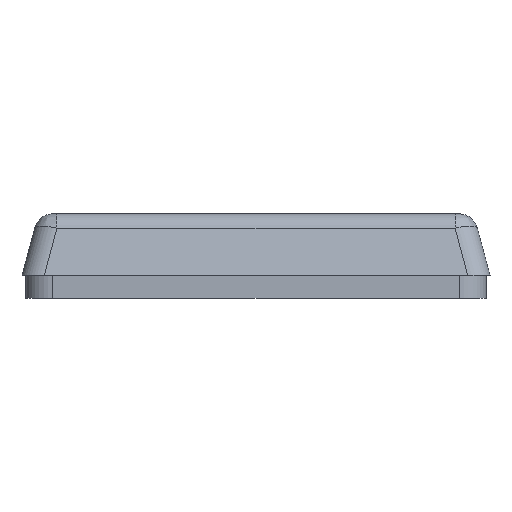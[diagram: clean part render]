
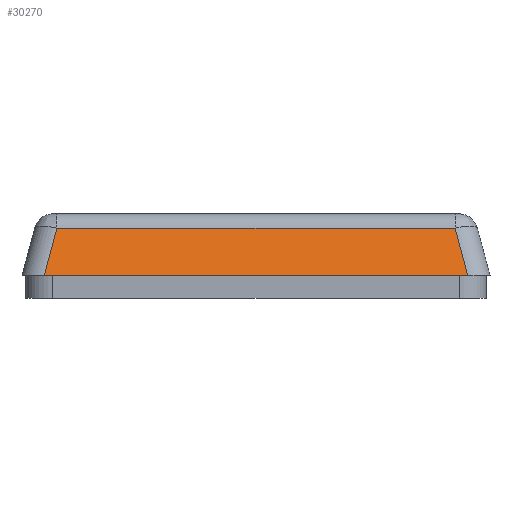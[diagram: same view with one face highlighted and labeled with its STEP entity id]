
A CAD part, left-side view. The second image highlights one B-rep face of the part: STEP entity #30270.
In plain terms, the highlighted planar face has unit normal (-0.966, 0, 0.259).
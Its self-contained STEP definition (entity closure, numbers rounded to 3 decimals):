
#1743=PLANE('',#33058);
#3956=LINE('',#51096,#6553);
#3958=LINE('',#51100,#6555);
#3959=LINE('',#51104,#6556);
#3960=LINE('',#51105,#6557);
#6553=VECTOR('',#40458,10.);
#6555=VECTOR('',#40462,10.);
#6556=VECTOR('',#40467,10.);
#6557=VECTOR('',#40468,10.);
#9289=FACE_OUTER_BOUND('',#11280,.T.);
#11280=EDGE_LOOP('',(#26308,#26309,#26310,#26311));
#15085=VERTEX_POINT('',#51089);
#15087=VERTEX_POINT('',#51094);
#15088=VERTEX_POINT('',#51099);
#15089=VERTEX_POINT('',#51103);
#18997=EDGE_CURVE('',#15087,#15085,#3956,.T.);
#18999=EDGE_CURVE('',#15085,#15088,#3958,.T.);
#19001=EDGE_CURVE('',#15089,#15087,#3959,.T.);
#19002=EDGE_CURVE('',#15088,#15089,#3960,.T.);
#26308=ORIENTED_EDGE('',*,*,#18997,.F.);
#26309=ORIENTED_EDGE('',*,*,#19001,.F.);
#26310=ORIENTED_EDGE('',*,*,#19002,.F.);
#26311=ORIENTED_EDGE('',*,*,#18999,.F.);
#30270=ADVANCED_FACE('',(#9289),#1743,.F.);
#33058=AXIS2_PLACEMENT_3D('',#51102,#40465,#40466);
#40458=DIRECTION('',(0.251,-0.251,0.935));
#40462=DIRECTION('',(0.,-1.,0.));
#40465=DIRECTION('center_axis',(0.966,0.,-0.259));
#40466=DIRECTION('ref_axis',(-0.259,0.,-0.966));
#40467=DIRECTION('',(0.,1.,0.));
#40468=DIRECTION('',(-0.251,-0.251,-0.935));
#51089=CARTESIAN_POINT('',(-49.853,25.955,2.147));
#51094=CARTESIAN_POINT('',(-51.5,27.602,-4.));
#51096=CARTESIAN_POINT('',(-46.905,23.007,13.149));
#51099=CARTESIAN_POINT('',(-49.853,-25.955,2.147));
#51100=CARTESIAN_POINT('',(-49.853,30.5,2.147));
#51102=CARTESIAN_POINT('Origin',(-49.853,30.5,2.147));
#51103=CARTESIAN_POINT('',(-51.5,-27.602,-4.));
#51104=CARTESIAN_POINT('',(-51.5,15.25,-4.));
#51105=CARTESIAN_POINT('',(-48.223,-24.326,8.228));
